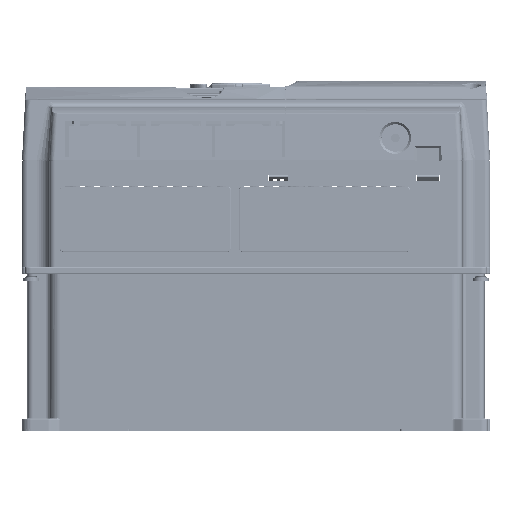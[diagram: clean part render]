
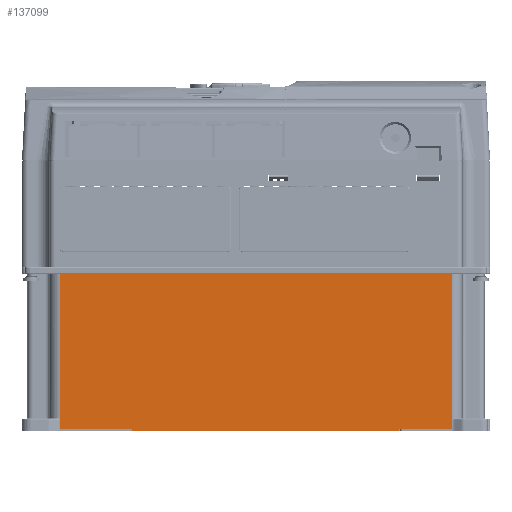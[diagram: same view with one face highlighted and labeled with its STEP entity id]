
A CAD part, left-side view. The second image highlights one B-rep face of the part: STEP entity #137099.
In plain terms, the highlighted planar face has unit normal (-1, 0, 0) as drawn and (1, 0, 0) by its records, which use the part's own axes.
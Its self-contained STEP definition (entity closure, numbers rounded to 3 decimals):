
#119518 = VERTEX_POINT('',#119519);
#119519 = CARTESIAN_POINT('',(70.,-80.,68.));
#119525 = EDGE_CURVE('',#119518,#119526,#119528,.T.);
#119526 = VERTEX_POINT('',#119527);
#119527 = CARTESIAN_POINT('',(70.,-80.,-78.));
#119528 = LINE('',#119529,#119530);
#119529 = CARTESIAN_POINT('',(70.,-80.,68.));
#119530 = VECTOR('',#119531,1.);
#119531 = DIRECTION('',(0.,0.,-1.));
#119850 = VERTEX_POINT('',#119851);
#119851 = CARTESIAN_POINT('',(70.,-78.5,68.));
#119857 = EDGE_CURVE('',#119518,#119850,#119858,.T.);
#119858 = LINE('',#119859,#119860);
#119859 = CARTESIAN_POINT('',(70.,-80.,68.));
#119860 = VECTOR('',#119861,1.);
#119861 = DIRECTION('',(0.,1.,0.));
#120122 = VERTEX_POINT('',#120123);
#120123 = CARTESIAN_POINT('',(70.,-78.5,-78.));
#120129 = EDGE_CURVE('',#120122,#120130,#120132,.T.);
#120130 = VERTEX_POINT('',#120131);
#120131 = CARTESIAN_POINT('',(70.,-78.5,-107.169));
#120132 = LINE('',#120133,#120134);
#120133 = CARTESIAN_POINT('',(70.,-78.5,-78.));
#120134 = VECTOR('',#120135,1.);
#120135 = DIRECTION('',(0.,0.,-1.));
#120933 = VERTEX_POINT('',#120934);
#120934 = CARTESIAN_POINT('',(70.,-78.5,107.169));
#120941 = EDGE_CURVE('',#120933,#119850,#120942,.T.);
#120942 = LINE('',#120943,#120944);
#120943 = CARTESIAN_POINT('',(70.,-78.5,107.169));
#120944 = VECTOR('',#120945,1.);
#120945 = DIRECTION('',(0.,0.,-1.));
#123646 = VERTEX_POINT('',#123647);
#123647 = CARTESIAN_POINT('',(70.,-73.,108.657));
#123657 = VERTEX_POINT('',#123658);
#123658 = CARTESIAN_POINT('',(69.999,-73.,107.164));
#123665 = EDGE_CURVE('',#123646,#123657,#123666,.T.);
#123666 = LINE('',#123667,#123668);
#123667 = CARTESIAN_POINT('',(70.,-73.,108.657));
#123668 = VECTOR('',#123669,1.);
#123669 = DIRECTION('',(-0.001,0.,-1.));
#123680 = VERTEX_POINT('',#123681);
#123681 = CARTESIAN_POINT('',(70.,-73.,-108.657));
#123692 = EDGE_CURVE('',#123680,#123693,#123695,.T.);
#123693 = VERTEX_POINT('',#123694);
#123694 = CARTESIAN_POINT('',(69.999,-73.,-107.164));
#123695 = LINE('',#123696,#123697);
#123696 = CARTESIAN_POINT('',(70.,-73.,-108.657));
#123697 = VECTOR('',#123698,1.);
#123698 = DIRECTION('',(-0.001,0.,1.));
#124566 = VERTEX_POINT('',#124567);
#124567 = CARTESIAN_POINT('',(70.,6.,-107.));
#124574 = EDGE_CURVE('',#124575,#124566,#124577,.T.);
#124575 = VERTEX_POINT('',#124576);
#124576 = CARTESIAN_POINT('',(70.,6.,107.));
#124577 = LINE('',#124578,#124579);
#124578 = CARTESIAN_POINT('',(70.,6.,107.));
#124579 = VECTOR('',#124580,1.);
#124580 = DIRECTION('',(0.,0.,-1.));
#137079 = EDGE_CURVE('',#137080,#120130,#137082,.T.);
#137080 = VERTEX_POINT('',#137081);
#137081 = CARTESIAN_POINT('',(70.,-73.5,-107.169));
#137082 = LINE('',#137083,#137084);
#137083 = CARTESIAN_POINT('',(70.,-73.5,-107.169));
#137084 = VECTOR('',#137085,1.);
#137085 = DIRECTION('',(0.,-1.,0.));
#137099 = ADVANCED_FACE('',(#137100),#137197,.T.);
#137100 = FACE_BOUND('',#137101,.T.);
#137101 = EDGE_LOOP('',(#137102,#137103,#137104,#137110,#137111,#137112,
    #137122,#137132,#137133,#137143,#137149,#137150,#137158,#137166,
    #137167,#137180,#137190,#137196));
#137102 = ORIENTED_EDGE('',*,*,#119857,.F.);
#137103 = ORIENTED_EDGE('',*,*,#119525,.T.);
#137104 = ORIENTED_EDGE('',*,*,#137105,.T.);
#137105 = EDGE_CURVE('',#119526,#120122,#137106,.T.);
#137106 = LINE('',#137107,#137108);
#137107 = CARTESIAN_POINT('',(70.,-80.,-78.));
#137108 = VECTOR('',#137109,1.);
#137109 = DIRECTION('',(0.,1.,0.));
#137110 = ORIENTED_EDGE('',*,*,#120129,.T.);
#137111 = ORIENTED_EDGE('',*,*,#137079,.F.);
#137112 = ORIENTED_EDGE('',*,*,#137113,.T.);
#137113 = EDGE_CURVE('',#137080,#137114,#137116,.T.);
#137114 = VERTEX_POINT('',#137115);
#137115 = CARTESIAN_POINT('',(70.,-73.408,
    -107.395));
#137116 = B_SPLINE_CURVE_WITH_KNOTS('',3,(#137117,#137118,#137119,
    #137120,#137121),.UNSPECIFIED.,.F.,.F.,(4,1,4),(0.,0.5,1.),
  .QUASI_UNIFORM_KNOTS.);
#137117 = CARTESIAN_POINT('',(70.,-73.5,-107.169));
#137118 = CARTESIAN_POINT('',(70.,-73.484,-107.207));
#137119 = CARTESIAN_POINT('',(70.,-73.453,
    -107.283));
#137120 = CARTESIAN_POINT('',(70.,-73.423,
    -107.358));
#137121 = CARTESIAN_POINT('',(70.,-73.408,
    -107.395));
#137122 = ORIENTED_EDGE('',*,*,#137123,.T.);
#137123 = EDGE_CURVE('',#137114,#123680,#137124,.T.);
#137124 = B_SPLINE_CURVE_WITH_KNOTS('',3,(#137125,#137126,#137127,
    #137128,#137129,#137130,#137131),.UNSPECIFIED.,.F.,.F.,(4,1,1,1,4),(
    0.,0.25,0.5,0.75,1.),.QUASI_UNIFORM_KNOTS.);
#137125 = CARTESIAN_POINT('',(70.,-73.408,
    -107.395));
#137126 = CARTESIAN_POINT('',(70.,-73.366,
    -107.478));
#137127 = CARTESIAN_POINT('',(70.,-73.303,
    -107.663));
#137128 = CARTESIAN_POINT('',(70.,-73.183,
    -107.953));
#137129 = CARTESIAN_POINT('',(70.,-73.078,
    -108.281));
#137130 = CARTESIAN_POINT('',(70.,-73.02,-108.527));
#137131 = CARTESIAN_POINT('',(70.,-73.,-108.657));
#137132 = ORIENTED_EDGE('',*,*,#123692,.T.);
#137133 = ORIENTED_EDGE('',*,*,#137134,.T.);
#137134 = EDGE_CURVE('',#123693,#137135,#137137,.T.);
#137135 = VERTEX_POINT('',#137136);
#137136 = CARTESIAN_POINT('',(70.,-73.,-107.));
#137137 = B_SPLINE_CURVE_WITH_KNOTS('',3,(#137138,#137139,#137140,
    #137141,#137142),.UNSPECIFIED.,.F.,.F.,(4,1,4),(0.,0.5,1.),
  .QUASI_UNIFORM_KNOTS.);
#137138 = CARTESIAN_POINT('',(69.999,-73.,-107.164));
#137139 = CARTESIAN_POINT('',(69.999,-73.,-107.136));
#137140 = CARTESIAN_POINT('',(70.001,-73.,-107.087));
#137141 = CARTESIAN_POINT('',(70.,-73.,-107.028));
#137142 = CARTESIAN_POINT('',(70.,-73.,-107.));
#137143 = ORIENTED_EDGE('',*,*,#137144,.T.);
#137144 = EDGE_CURVE('',#137135,#124566,#137145,.T.);
#137145 = LINE('',#137146,#137147);
#137146 = CARTESIAN_POINT('',(70.,-73.,-107.));
#137147 = VECTOR('',#137148,1.);
#137148 = DIRECTION('',(0.,1.,0.));
#137149 = ORIENTED_EDGE('',*,*,#124574,.F.);
#137150 = ORIENTED_EDGE('',*,*,#137151,.T.);
#137151 = EDGE_CURVE('',#124575,#137152,#137154,.T.);
#137152 = VERTEX_POINT('',#137153);
#137153 = CARTESIAN_POINT('',(70.,-73.,107.));
#137154 = LINE('',#137155,#137156);
#137155 = CARTESIAN_POINT('',(70.,6.,107.));
#137156 = VECTOR('',#137157,1.);
#137157 = DIRECTION('',(0.,-1.,0.));
#137158 = ORIENTED_EDGE('',*,*,#137159,.T.);
#137159 = EDGE_CURVE('',#137152,#123657,#137160,.T.);
#137160 = B_SPLINE_CURVE_WITH_KNOTS('',3,(#137161,#137162,#137163,
    #137164,#137165),.UNSPECIFIED.,.F.,.F.,(4,1,4),(0.,0.5,1.),
  .QUASI_UNIFORM_KNOTS.);
#137161 = CARTESIAN_POINT('',(70.,-73.,107.));
#137162 = CARTESIAN_POINT('',(70.,-73.,107.028));
#137163 = CARTESIAN_POINT('',(70.001,-73.,107.087));
#137164 = CARTESIAN_POINT('',(69.999,-73.,107.136));
#137165 = CARTESIAN_POINT('',(69.999,-73.,107.164));
#137166 = ORIENTED_EDGE('',*,*,#123665,.F.);
#137167 = ORIENTED_EDGE('',*,*,#137168,.F.);
#137168 = EDGE_CURVE('',#137169,#123646,#137171,.T.);
#137169 = VERTEX_POINT('',#137170);
#137170 = CARTESIAN_POINT('',(70.,-73.405,
    107.403));
#137171 = B_SPLINE_CURVE_WITH_KNOTS('',3,(#137172,#137173,#137174,
    #137175,#137176,#137177,#137178,#137179),.UNSPECIFIED.,.F.,.F.,(4,1,
    1,1,1,4),(0.,0.2,0.4,0.6,0.8,1.),.QUASI_UNIFORM_KNOTS.);
#137172 = CARTESIAN_POINT('',(70.,-73.405,
    107.403));
#137173 = CARTESIAN_POINT('',(70.,-73.373,
    107.481));
#137174 = CARTESIAN_POINT('',(70.,-73.298,
    107.663));
#137175 = CARTESIAN_POINT('',(70.,-73.201,
    107.913));
#137176 = CARTESIAN_POINT('',(70.,-73.116,
    108.162));
#137177 = CARTESIAN_POINT('',(70.,-73.046,
    108.408));
#137178 = CARTESIAN_POINT('',(70.,-73.013,108.574));
#137179 = CARTESIAN_POINT('',(70.,-73.,108.657));
#137180 = ORIENTED_EDGE('',*,*,#137181,.T.);
#137181 = EDGE_CURVE('',#137169,#137182,#137184,.T.);
#137182 = VERTEX_POINT('',#137183);
#137183 = CARTESIAN_POINT('',(70.,-73.5,107.169));
#137184 = B_SPLINE_CURVE_WITH_KNOTS('',3,(#137185,#137186,#137187,
    #137188,#137189),.UNSPECIFIED.,.F.,.F.,(4,1,4),(0.,0.5,1.),
  .QUASI_UNIFORM_KNOTS.);
#137185 = CARTESIAN_POINT('',(70.,-73.405,
    107.403));
#137186 = CARTESIAN_POINT('',(70.,-73.422,
    107.36));
#137187 = CARTESIAN_POINT('',(70.,-73.447,
    107.298));
#137188 = CARTESIAN_POINT('',(70.,-73.484,107.209));
#137189 = CARTESIAN_POINT('',(70.,-73.5,107.169));
#137190 = ORIENTED_EDGE('',*,*,#137191,.F.);
#137191 = EDGE_CURVE('',#120933,#137182,#137192,.T.);
#137192 = LINE('',#137193,#137194);
#137193 = CARTESIAN_POINT('',(70.,-78.5,107.169));
#137194 = VECTOR('',#137195,1.);
#137195 = DIRECTION('',(0.,1.,0.));
#137196 = ORIENTED_EDGE('',*,*,#120941,.T.);
#137197 = PLANE('',#137198);
#137198 = AXIS2_PLACEMENT_3D('',#137199,#137200,#137201);
#137199 = CARTESIAN_POINT('',(70.,-80.,125.));
#137200 = DIRECTION('',(1.,0.,0.));
#137201 = DIRECTION('',(0.,0.,-1.));
